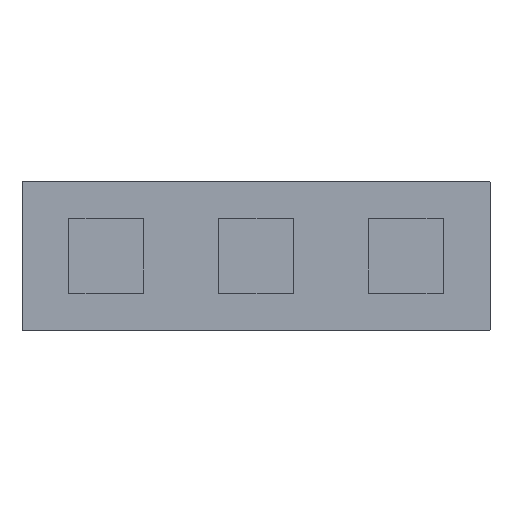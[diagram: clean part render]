
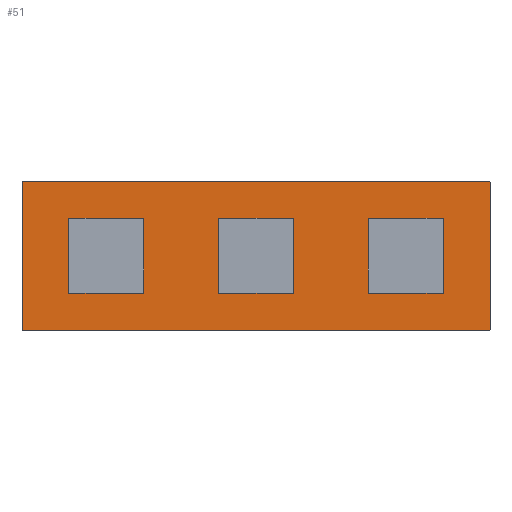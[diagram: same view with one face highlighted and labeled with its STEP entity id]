
A CAD part, top view. The second image highlights one B-rep face of the part: STEP entity #51.
In plain terms, the highlighted planar face has unit normal (0, 0, 1).
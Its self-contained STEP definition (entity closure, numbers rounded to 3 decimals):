
#51 = ADVANCED_FACE('',(#52),#122,.T.);
#52 = FACE_BOUND('',#53,.T.);
#53 = EDGE_LOOP('',(#54,#64,#73,#81,#90,#98,#107,#115));
#54 = ORIENTED_EDGE('',*,*,#55,.T.);
#55 = EDGE_CURVE('',#56,#58,#60,.T.);
#56 = VERTEX_POINT('',#57);
#57 = CARTESIAN_POINT('',(124.5,40.,5.
    ));
#58 = VERTEX_POINT('',#59);
#59 = CARTESIAN_POINT('',(-124.5,40.,5.
    ));
#60 = LINE('',#61,#62);
#61 = CARTESIAN_POINT('',(124.5,40.,5.
    ));
#62 = VECTOR('',#63,1.);
#63 = DIRECTION('',(-1.,0.,0.));
#64 = ORIENTED_EDGE('',*,*,#65,.T.);
#65 = EDGE_CURVE('',#58,#66,#68,.T.);
#66 = VERTEX_POINT('',#67);
#67 = CARTESIAN_POINT('',(-125.,39.5,5.
    ));
#68 = CIRCLE('',#69,0.5);
#69 = AXIS2_PLACEMENT_3D('',#70,#71,#72);
#70 = CARTESIAN_POINT('',(-124.5,39.5,5.
    ));
#71 = DIRECTION('',(0.,0.,1.));
#72 = DIRECTION('',(1.,0.,-0.));
#73 = ORIENTED_EDGE('',*,*,#74,.T.);
#74 = EDGE_CURVE('',#66,#75,#77,.T.);
#75 = VERTEX_POINT('',#76);
#76 = CARTESIAN_POINT('',(-125.,-39.5,5.
    ));
#77 = LINE('',#78,#79);
#78 = CARTESIAN_POINT('',(-125.,39.5,5.
    ));
#79 = VECTOR('',#80,1.);
#80 = DIRECTION('',(0.,-1.,0.));
#81 = ORIENTED_EDGE('',*,*,#82,.T.);
#82 = EDGE_CURVE('',#75,#83,#85,.T.);
#83 = VERTEX_POINT('',#84);
#84 = CARTESIAN_POINT('',(-124.5,-40.,5.
    ));
#85 = CIRCLE('',#86,0.5);
#86 = AXIS2_PLACEMENT_3D('',#87,#88,#89);
#87 = CARTESIAN_POINT('',(-124.5,-39.5,5.
    ));
#88 = DIRECTION('',(0.,0.,1.));
#89 = DIRECTION('',(1.,0.,-0.));
#90 = ORIENTED_EDGE('',*,*,#91,.T.);
#91 = EDGE_CURVE('',#83,#92,#94,.T.);
#92 = VERTEX_POINT('',#93);
#93 = CARTESIAN_POINT('',(124.5,-40.,5.
    ));
#94 = LINE('',#95,#96);
#95 = CARTESIAN_POINT('',(-124.5,-40.,5.
    ));
#96 = VECTOR('',#97,1.);
#97 = DIRECTION('',(1.,0.,0.));
#98 = ORIENTED_EDGE('',*,*,#99,.T.);
#99 = EDGE_CURVE('',#92,#100,#102,.T.);
#100 = VERTEX_POINT('',#101);
#101 = CARTESIAN_POINT('',(125.,-39.5,
    5.));
#102 = CIRCLE('',#103,0.5);
#103 = AXIS2_PLACEMENT_3D('',#104,#105,#106);
#104 = CARTESIAN_POINT('',(124.5,-39.5,
    5.));
#105 = DIRECTION('',(0.,0.,1.));
#106 = DIRECTION('',(1.,0.,-0.));
#107 = ORIENTED_EDGE('',*,*,#108,.T.);
#108 = EDGE_CURVE('',#100,#109,#111,.T.);
#109 = VERTEX_POINT('',#110);
#110 = CARTESIAN_POINT('',(125.,39.5,
    5.));
#111 = LINE('',#112,#113);
#112 = CARTESIAN_POINT('',(125.,-39.5,
    5.));
#113 = VECTOR('',#114,1.);
#114 = DIRECTION('',(0.,1.,0.));
#115 = ORIENTED_EDGE('',*,*,#116,.T.);
#116 = EDGE_CURVE('',#109,#56,#117,.T.);
#117 = CIRCLE('',#118,0.5);
#118 = AXIS2_PLACEMENT_3D('',#119,#120,#121);
#119 = CARTESIAN_POINT('',(124.5,39.5,
    5.));
#120 = DIRECTION('',(0.,0.,1.));
#121 = DIRECTION('',(1.,0.,-0.));
#122 = PLANE('',#123);
#123 = AXIS2_PLACEMENT_3D('',#124,#125,#126);
#124 = CARTESIAN_POINT('',(-124.5,40.,
    5.));
#125 = DIRECTION('',(0.,0.,1.));
#126 = DIRECTION('',(-1.,0.,0.));
